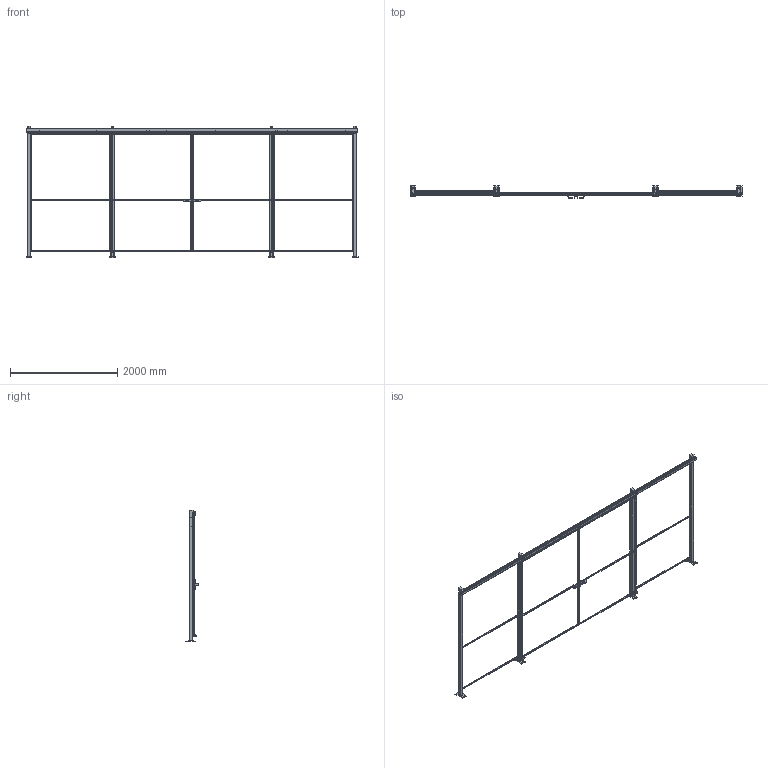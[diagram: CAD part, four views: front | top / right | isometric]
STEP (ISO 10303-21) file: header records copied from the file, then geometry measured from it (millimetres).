
FILE_DESCRIPTION(/* description */ (''),/* implementation_level */ '2;1');
FILE_NAME(/* name */ 'C:\SafeGuarding\ELABORATI\HOR§VED_2025-03-31-14-20-14.stp',/* time_stamp */ '2025-03-31T14:20:19+02:00',/* author */ ('admin'),/* organization */ (''),/* preprocessor_version */ 'ST-DEVELOPER v18.1',/* originating_system */ 'AutoCAD Mechanical',/* authorisation */ '');
FILE_SCHEMA (('AUTOMOTIVE_DESIGN { 1 0 10303 214 3 1 1 }'));
Length unit declared in the file: millimetre
Products named in the file (3): Product; R_VFPA.REPE20.15002200; P_VFMA.V260SDU.2320
Assembly tree (8 placements, depth 2):
  Product
    R_VFPA.REPE20.15002200  x4
    P_VFMA.V260SDU.2320  x4
Bounding box: 6180 x 235.91 x 2454 mm (x, y, z)
Volume: 63741952.6 mm3; surface area: 9776751.7 mm2
Topology: 58 solids, 80 shells, 694 faces, 2399 edges, 2506 vertices
Faces by surface type: plane 638, cylinder 56
Full cylindrical faces by diameter (mm): 11 x16, 12 x4, 14 x4, 15 x8, 40 x8
Entity records: 18126 total; most frequent: CARTESIAN_POINT 3823, ORIENTED_EDGE 2724, DIRECTION 2696, EDGE_CURVE 1460, LINE 1326, VECTOR 1326, VERTEX_POINT 1056, AXIS2_PLACEMENT_3D 685
